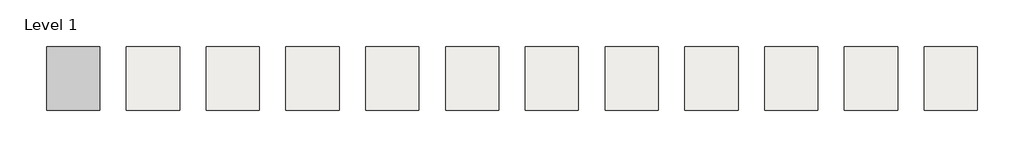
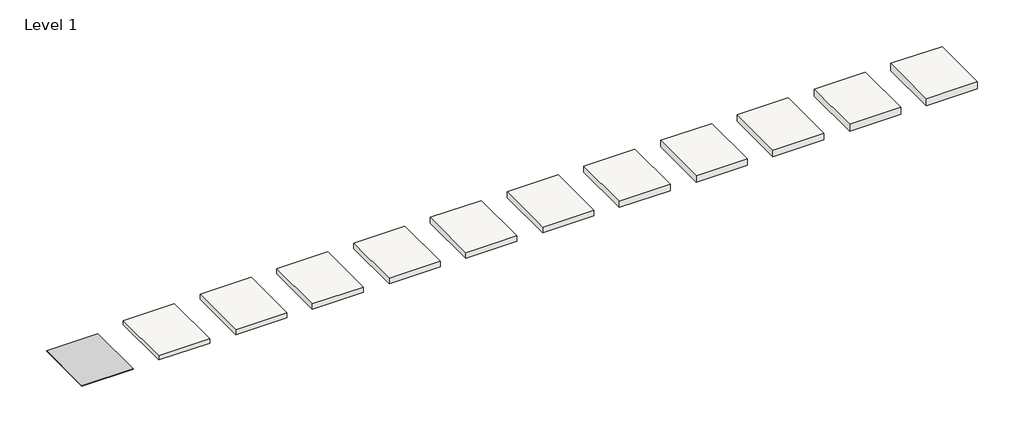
# One storey, incomplete: 11 roofs, 1 plate.
"""IFC4 building model written with IfcOpenShell, lengths in millimetres."""

from ifc_helpers import new_model, si_unit, frame, origin, place, context, project, spatial, polyline, outline, extrude, transform, mapped, element, save
from components import system_panel_glazed_528b41a4

model = new_model("IFC4")

# Units and contexts
model_context = context("Model", 3, world=origin())
ifc_project = project(units=[si_unit("LENGTHUNIT", "METRE", prefix="MILLI")], contexts=[model_context])

# Site, building, storey
site = spatial("IfcSite", under=ifc_project)
building = spatial("IfcBuilding", under=site)
storey = spatial("IfcBuildingStorey", under=building, Name="Level 1", Elevation=4000.0)

# Plate
placement = place(None, origin())
system_panel_glazed_shape = system_panel_glazed_528b41a4(model_context)
element("IfcPlate", 1, ObjectType="System Panel : Glazed", at=placement, inside=storey, context=model_context, shape_type="MappedRepresentation", body=[
    mapped(system_panel_glazed_shape, transform((-19669.3679784, 4719.5836599, 4000.0), x_axis=(-1.0, 0.0, 0.0), y_axis=(0.0, 0.0, -1.0), z_axis=(0.0, -1.0, 0.0))),
])

# Roofs
element("IfcRoof", 2, ObjectType="AAP_Basic Roof", at=placement, inside=storey, context=model_context, shape_type="SweptSolid", body=[
    extrude(outline(polyline([(-17129.3679784, 4719.5836599), (-14589.3679784, 4719.5836599), (-14589.3679784, 1671.5836599), (-17129.3679784, 1671.5836599), (-17129.3679784, 4719.5836599)])), frame((0.0, 0.0, 4000.0), z_axis=(0.0, 0.0, 1.0), x_axis=(1.0, 0.0, 0.0)), (0.0, 0.0, 1.0), 212.5265625),
])
element("IfcRoof", 3, ObjectType="AAP_Roof_Flat-1.5\" Fiberglass Batt", at=placement, inside=storey, context=model_context, shape_type="SweptSolid", body=[
    extrude(outline(polyline([(-13319.3679784, 4719.5836599), (-10779.3679784, 4719.5836599), (-10779.3679784, 1671.5836599), (-13319.3679784, 1671.5836599), (-13319.3679784, 4719.5836599)])), frame((0.0, 0.0, 4000.0), z_axis=(0.0, 0.0, 1.0), x_axis=(1.0, 0.0, 0.0)), (0.0, 0.0, 1.0), 258.5640625),
])
element("IfcRoof", 4, ObjectType="AAP_Roof_Flat-2.0\" Fiberglass Batt", at=placement, inside=storey, context=model_context, shape_type="SweptSolid", body=[
    extrude(outline(polyline([(-9509.3679784, 4719.5836599), (-6969.3679784, 4719.5836599), (-6969.3679784, 1671.5836599), (-9509.3679784, 1671.5836599), (-9509.3679784, 4719.5836599)])), frame((0.0, 0.0, 4000.0), z_axis=(0.0, 0.0, 1.0), x_axis=(1.0, 0.0, 0.0)), (0.0, 0.0, 1.0), 271.2640625),
])
element("IfcRoof", 5, ObjectType="AAP_Roof_Flat-2.5\" Fiberglass Batt 2", at=placement, inside=storey, context=model_context, shape_type="SweptSolid", body=[
    extrude(outline(polyline([(-5699.3679784, 4719.5836599), (-3159.3679784, 4719.5836599), (-3159.3679784, 1671.5836599), (-5699.3679784, 1671.5836599), (-5699.3679784, 4719.5836599)])), frame((0.0, 0.0, 4000.0), z_axis=(0.0, 0.0, 1.0), x_axis=(1.0, 0.0, 0.0)), (0.0, 0.0, 1.0), 283.9640625),
])
element("IfcRoof", 6, ObjectType="AAP_Roof_Flat-3.0\" Fiberglass Batt", at=placement, inside=storey, context=model_context, shape_type="SweptSolid", body=[
    extrude(outline(polyline([(-1889.3679784, 4719.5836599), (650.6320216, 4719.5836599), (650.6320216, 1671.5836599), (-1889.3679784, 1671.5836599), (-1889.3679784, 4719.5836599)])), frame((0.0, 0.0, 4000.0), z_axis=(0.0, 0.0, 1.0), x_axis=(1.0, 0.0, 0.0)), (0.0, 0.0, 1.0), 296.6640625),
])
element("IfcRoof", 7, ObjectType="AAP_Roof_Flat-3.5\" Fiberglass Batt", at=placement, inside=storey, context=model_context, shape_type="SweptSolid", body=[
    extrude(outline(polyline([(1920.6320216, 4719.5836599), (4460.6320216, 4719.5836599), (4460.6320216, 1671.5836599), (1920.6320216, 1671.5836599), (1920.6320216, 4719.5836599)])), frame((0.0, 0.0, 4000.0), z_axis=(0.0, 0.0, 1.0), x_axis=(1.0, 0.0, 0.0)), (0.0, 0.0, 1.0), 309.3640625),
])
element("IfcRoof", 8, ObjectType="AAP_Roof_Flat-4.0\" Fiberglass Batt", at=placement, inside=storey, context=model_context, shape_type="SweptSolid", body=[
    extrude(outline(polyline([(5730.6320216, 4719.5836599), (8270.6320216, 4719.5836599), (8270.6320216, 1671.5836599), (5730.6320216, 1671.5836599), (5730.6320216, 4719.5836599)])), frame((0.0, 0.0, 4000.0), z_axis=(0.0, 0.0, 1.0), x_axis=(1.0, 0.0, 0.0)), (0.0, 0.0, 1.0), 322.0640625),
])
element("IfcRoof", 9, ObjectType="AAP_Roof_Flat-4.5\" Fiberglass Batt", at=placement, inside=storey, context=model_context, shape_type="SweptSolid", body=[
    extrude(outline(polyline([(9540.6320216, 4719.5836599), (12080.6320216, 4719.5836599), (12080.6320216, 1671.5836599), (9540.6320216, 1671.5836599), (9540.6320216, 4719.5836599)])), frame((0.0, 0.0, 4000.0), z_axis=(0.0, 0.0, 1.0), x_axis=(1.0, 0.0, 0.0)), (0.0, 0.0, 1.0), 334.7640625),
])
element("IfcRoof", 10, ObjectType="AAP_Roof_Flat-5.0\" Fiberglass Batt", at=placement, inside=storey, context=model_context, shape_type="SweptSolid", body=[
    extrude(outline(polyline([(13350.6320216, 4719.5836599), (15890.6320216, 4719.5836599), (15890.6320216, 1671.5836599), (13350.6320216, 1671.5836599), (13350.6320216, 4719.5836599)])), frame((0.0, 0.0, 4000.0), z_axis=(0.0, 0.0, 1.0), x_axis=(1.0, 0.0, 0.0)), (0.0, 0.0, 1.0), 347.4640625),
])
element("IfcRoof", 11, ObjectType="AAP_Roof_Flat-5.5\" Fiberglass Batt", at=placement, inside=storey, context=model_context, shape_type="SweptSolid", body=[
    extrude(outline(polyline([(17160.6320216, 4719.5836599), (19700.6320216, 4719.5836599), (19700.6320216, 1671.5836599), (17160.6320216, 1671.5836599), (17160.6320216, 4719.5836599)])), frame((0.0, 0.0, 4000.0), z_axis=(0.0, 0.0, 1.0), x_axis=(1.0, 0.0, 0.0)), (0.0, 0.0, 1.0), 360.1640625),
])
element("IfcRoof", 12, ObjectType="AAP_Roof_Flat-6.0\" Fiberglass Batt", at=placement, inside=storey, context=model_context, shape_type="SweptSolid", body=[
    extrude(outline(polyline([(20970.6320216, 4719.5836599), (23510.6320216, 4719.5836599), (23510.6320216, 1671.5836599), (20970.6320216, 1671.5836599), (20970.6320216, 4719.5836599)])), frame((0.0, 0.0, 4000.0), z_axis=(0.0, 0.0, 1.0), x_axis=(1.0, 0.0, 0.0)), (0.0, 0.0, 1.0), 372.8640625),
])

save(model, "model.ifc")
